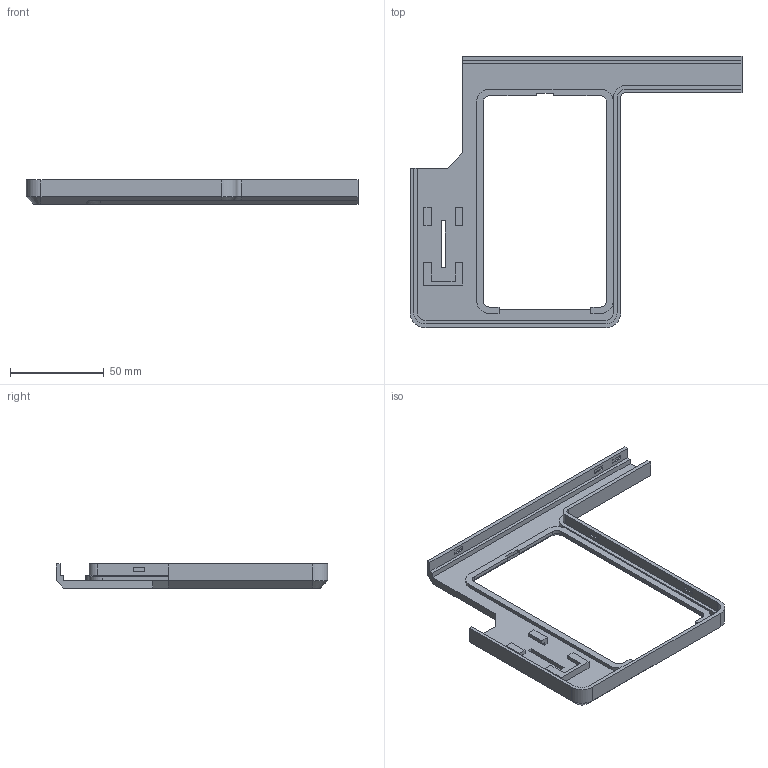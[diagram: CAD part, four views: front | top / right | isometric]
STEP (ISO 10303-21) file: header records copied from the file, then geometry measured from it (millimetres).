
FILE_DESCRIPTION(/* description */ ('STEP AP242','CAx-IF Rec.Pracs.---Representation and Presentation of Product Manufacturing Information (PMI)---4.0---2014-10-13','CAx-IF Rec.Pracs.---3D Tessellated Geometry---0.4---2014-09-14','2;1'),/* implementation_level */ '2;1');
FILE_NAME(/* name */ '687e6c5ff344454910d48377',/* time_stamp */ '2025-07-21T16:35:44Z',/* author */ (''),/* organization */ (''),/* preprocessor_version */ 'ST-DEVELOPER v20',/* originating_system */ 'ONSHAPE BY PTC INC, 1.201',/* authorisation */ ' ');
FILE_SCHEMA (('AP242_MANAGED_MODEL_BASED_3D_ENGINEERING_MIM_LF { 1 0 10303 442 1 1 4 }'));
Length unit declared in the file: metre
Products named in the file (1): Right Housing Cover
Bounding box: 177.12 x 144.75 x 12.9 mm (x, y, z)
Volume: 36084.6 mm3; surface area: 29919.6 mm2
Topology: 1 solids, 1 shells, 169 faces, 455 edges, 301 vertices
Faces by surface type: plane 140, cylinder 21, cone 8
Entity records: 5258 total; most frequent: CARTESIAN_POINT 926, ORIENTED_EDGE 910, DIRECTION 850, EDGE_CURVE 455, LINE 400, VECTOR 400, VERTEX_POINT 301, AXIS2_PLACEMENT_3D 225
